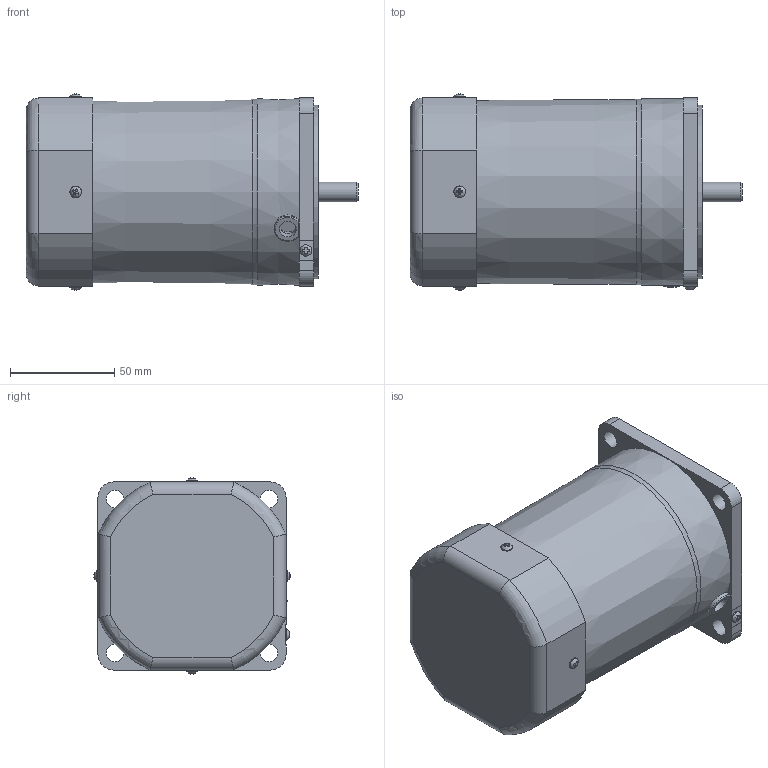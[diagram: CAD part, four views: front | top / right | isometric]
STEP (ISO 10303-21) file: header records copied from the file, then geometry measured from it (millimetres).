
FILE_DESCRIPTION(/* description */ (''),/* implementation_level */ '2;1');
FILE_NAME(/* name */ 'Y:\제품연구개발\3. 도면\3. 고객배포용\3D_홈페이지용\01-1 Standard AC SG Series\0704) 미주향 SG 도면\3D MOTOR\REVERSIBLE\SG9R90G\SG9R90G.stp',/* time_stamp */ '2023-11-23T10:40:49+09:00',/* author */ ('shyi1037'),/* organization */ (''),/* preprocessor_version */ 'ST-DEVELOPER v18.1',/* originating_system */ 'Autodesk Inventor 2022',/* authorisation */ '');
FILE_SCHEMA (('AUTOMOTIVE_DESIGN { 1 0 10303 214 3 1 1 }'));
Length unit declared in the file: millimetre
Products named in the file (5): S9I90G_; S9I90GㅁCE; S9_60_HOUSING A; FAN COVER; 6_CORD BUSH
Assembly tree (4 placements, depth 2):
  S9I90G_
    S9I90GㅁCE
    S9_60_HOUSING A
    FAN COVER
    6_CORD BUSH
Bounding box: 158.9 x 93.89 x 93.89 mm (x, y, z)
Volume: 964556.7 mm3; surface area: 89465.7 mm2
Topology: 4 solids, 8 shells, 208 faces, 523 edges, 344 vertices
Faces by surface type: plane 130, cylinder 49, torus 14, cone 10, bspline 5
Full cylindrical faces by diameter (mm): 3 x8, 3.5 x4, 5.6 x5, 8 x1, 8.5 x4, 9.33 x1, 10 x1, 40 x1, 83 x1, 86 x1
Entity records: 7042 total; most frequent: CARTESIAN_POINT 1875, ORIENTED_EDGE 1046, DIRECTION 1008, EDGE_CURVE 523, AXIS2_PLACEMENT_3D 364, VERTEX_POINT 344, LINE 280, VECTOR 280
